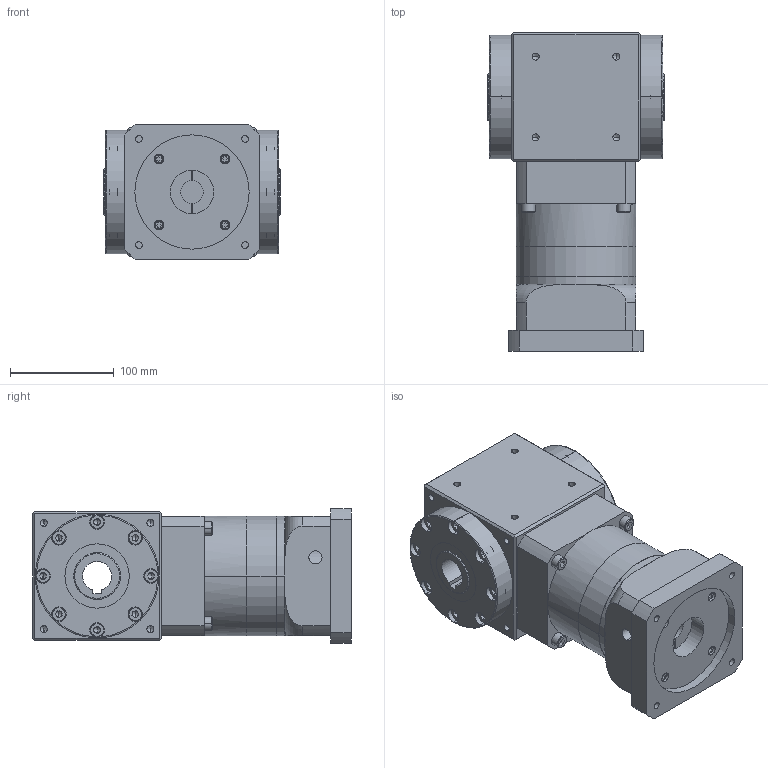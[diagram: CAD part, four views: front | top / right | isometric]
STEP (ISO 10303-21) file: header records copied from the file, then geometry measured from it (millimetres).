
FILE_DESCRIPTION (( 'STEP AP214' ), '1' );
FILE_NAME ('RAH120-L2-XX-H-22-110-145-M8_2019.STEP', '2019-03-27T08:51:02', ( 'Y' ), ( 'NCU' ), 'SwSTEP 2.0', 'SolidWorks 2016', '' );
FILE_SCHEMA (( 'AUTOMOTIVE_DESIGN' ));
Length unit declared in the file: millimetre
Products named in the file (1): RAH120-L2-XX-H-22-110-145-M8_2019
Bounding box: 170 x 306.8 x 130 mm (x, y, z)
Volume: 4312904.5 mm3; surface area: 338726.8 mm2
Topology: 3 solids, 29 shells, 854 faces, 1997 edges, 1218 vertices
Faces by surface type: plane 422, cylinder 284, cone 104, torus 44
Entity records: 28625 total; most frequent: CARTESIAN_POINT 7138, DIRECTION 4387, ORIENTED_EDGE 3834, EDGE_CURVE 1917, AXIS2_PLACEMENT_3D 1687, VERTEX_POINT 1218, VECTOR 1013, LINE 1013
